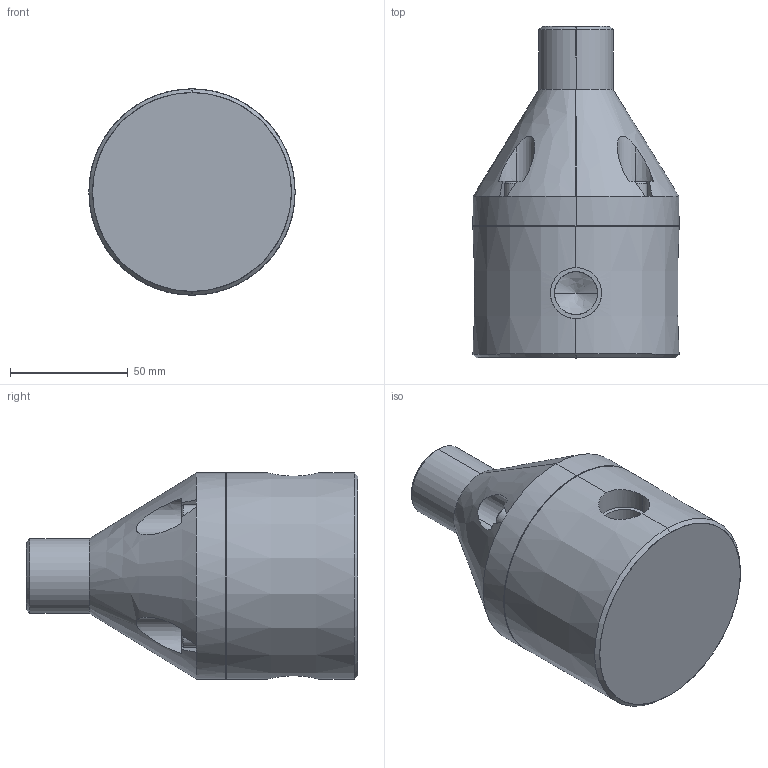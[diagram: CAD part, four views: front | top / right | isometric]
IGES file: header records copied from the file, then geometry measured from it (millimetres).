
Start section: SolidWorks IGES file using analytic representation for surfaces
Global section: file name: F:\Griffco-Valve\Griffco_current-projects\GV_web-files_2015\G Series\New\GBP0500-SOC.IGS; native system: SolidWorks 2008; preprocessor: SolidWorks 2008; author: Dan; date: 150427.061311; units: inch
Bounding box: 87.63 x 140.97 x 87.63 mm (x, y, z)
Surface area: 49360.5 mm2 (no closed solid volume)
Topology: 0 solids, 0 shells, 127 faces, 1972 edges, 1968 vertices
Faces by surface type: bspline 73, revolution 54
